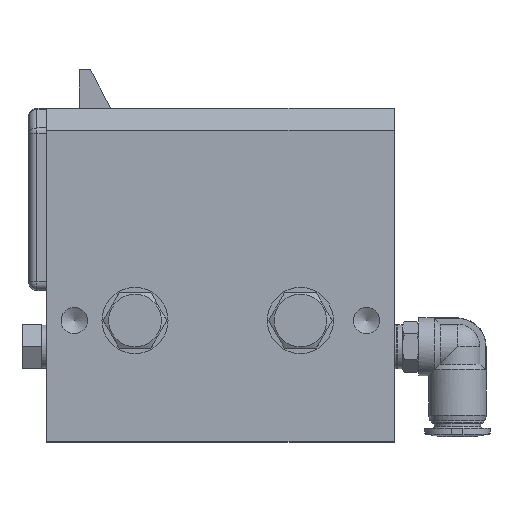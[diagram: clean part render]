
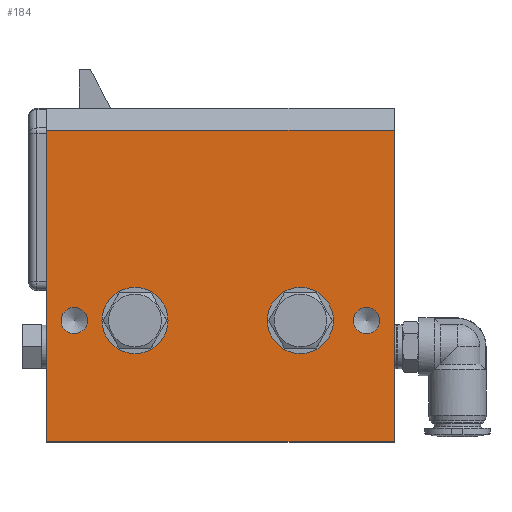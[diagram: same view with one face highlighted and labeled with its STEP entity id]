
A CAD part, top view. The second image highlights one B-rep face of the part: STEP entity #184.
In plain terms, the highlighted planar face has unit normal (0, 0, 1).
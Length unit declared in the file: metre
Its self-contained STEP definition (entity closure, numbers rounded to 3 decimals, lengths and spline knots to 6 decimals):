
#184 = ADVANCED_FACE ( 'NONE', ( #6180, #6227, #6161, #6205, #6247 ), #19250, .F. ) ;
#753 = ORIENTED_EDGE ( 'NONE', *, *, #22380, .T. ) ;
#759 = LINE ( 'NONE', #16651, #3459 ) ;
#1189 = VERTEX_POINT ( 'NONE', #21572 ) ;
#2501 = EDGE_CURVE ( 'NONE', #1189, #12974, #759, .T. ) ;
#2592 = CARTESIAN_POINT ( 'NONE',  ( 0.0132, 0., 0.034304 ) ) ;
#2747 = CARTESIAN_POINT ( 'NONE',  ( 0.0015, 0., 0.034304 ) ) ;
#2983 = CIRCLE ( 'NONE', #8362, 0.0031 ) ;
#3023 = VECTOR ( 'NONE', #18365, 1. ) ;
#3365 = DIRECTION ( 'NONE',  ( -1., 0., 0. ) ) ;
#3439 = CARTESIAN_POINT ( 'NONE',  ( -0.0059, 0.0385, 0.034304 ) ) ;
#3459 = VECTOR ( 'NONE', #4296, 1. ) ;
#3580 = LINE ( 'NONE', #4247, #3023 ) ;
#4247 = CARTESIAN_POINT ( 'NONE',  ( -0.0059, -0.022, 0.034304 ) ) ;
#4296 = DIRECTION ( 'NONE',  ( 0., 1., 0. ) ) ;
#4726 = CIRCLE ( 'NONE', #14170, 0.0031 ) ;
#4917 = LINE ( 'NONE', #11335, #5395 ) ;
#4918 = CARTESIAN_POINT ( 'NONE',  ( -0.0059, 0.0345, 0.034304 ) ) ;
#5166 = EDGE_LOOP ( 'NONE', ( #9213 ) ) ;
#5395 = VECTOR ( 'NONE', #13089, 1. ) ;
#5449 = EDGE_CURVE ( 'NONE', #16271, #16271, #10756, .T. ) ;
#5516 = DIRECTION ( 'NONE',  ( 0., 0., 1. ) ) ;
#5535 = EDGE_LOOP ( 'NONE', ( #17180 ) ) ;
#6161 = FACE_BOUND ( 'NONE', #19474, .T. ) ;
#6180 = FACE_BOUND ( 'NONE', #18334, .T. ) ;
#6205 = FACE_BOUND ( 'NONE', #5166, .T. ) ;
#6227 = FACE_BOUND ( 'NONE', #5535, .T. ) ;
#6247 = FACE_OUTER_BOUND ( 'NONE', #16998, .T. ) ;
#6368 = EDGE_CURVE ( 'NONE', #12974, #6460, #10778, .T. ) ;
#6371 = VERTEX_POINT ( 'NONE', #2747 ) ;
#6460 = VERTEX_POINT ( 'NONE', #4918 ) ;
#6745 = ORIENTED_EDGE ( 'NONE', *, *, #2501, .T. ) ;
#7977 = DIRECTION ( 'NONE',  ( 0., 0., 1. ) ) ;
#8049 = CARTESIAN_POINT ( 'NONE',  ( 0.0432, 0., 0.034304 ) ) ;
#8103 = DIRECTION ( 'NONE',  ( 0., 0., 1. ) ) ;
#8192 = ORIENTED_EDGE ( 'NONE', *, *, #6368, .T. ) ;
#8362 = AXIS2_PLACEMENT_3D ( 'NONE', #18536, #7977, #20301 ) ;
#8512 = ORIENTED_EDGE ( 'NONE', *, *, #12727, .T. ) ;
#8712 = CARTESIAN_POINT ( 'NONE',  ( 0.0571, 0.0345, 0.034304 ) ) ;
#8899 = ORIENTED_EDGE ( 'NONE', *, *, #17729, .F. ) ;
#9213 = ORIENTED_EDGE ( 'NONE', *, *, #18275, .F. ) ;
#9820 = CARTESIAN_POINT ( 'NONE',  ( -0.0009, 0., 0.034304 ) ) ;
#10756 = CIRCLE ( 'NONE', #14690, 0.0024 ) ;
#10778 = LINE ( 'NONE', #18816, #10796 ) ;
#10796 = VECTOR ( 'NONE', #20587, 1. ) ;
#11177 = CARTESIAN_POINT ( 'NONE',  ( 0.0545, 0., 0.034304 ) ) ;
#11335 = CARTESIAN_POINT ( 'NONE',  ( -0.0059, -0.022, 0.034304 ) ) ;
#11408 = AXIS2_PLACEMENT_3D ( 'NONE', #3439, #15719, #3365 ) ;
#11597 = DIRECTION ( 'NONE',  ( 1., 0., 0. ) ) ;
#12388 = EDGE_CURVE ( 'NONE', #21191, #21191, #2983, .T. ) ;
#12727 = EDGE_CURVE ( 'NONE', #15777, #1189, #3580, .T. ) ;
#12974 = VERTEX_POINT ( 'NONE', #8712 ) ;
#13089 = DIRECTION ( 'NONE',  ( 0., -1., 0. ) ) ;
#13810 = ORIENTED_EDGE ( 'NONE', *, *, #12388, .F. ) ;
#14170 = AXIS2_PLACEMENT_3D ( 'NONE', #18663, #8103, #20437 ) ;
#14690 = AXIS2_PLACEMENT_3D ( 'NONE', #16117, #5516, #17865 ) ;
#15719 = DIRECTION ( 'NONE',  ( 0., 0., -1. ) ) ;
#15777 = VERTEX_POINT ( 'NONE', #16219 ) ;
#16117 = CARTESIAN_POINT ( 'NONE',  ( 0.0521, 0., 0.034304 ) ) ;
#16219 = CARTESIAN_POINT ( 'NONE',  ( -0.0059, -0.022, 0.034304 ) ) ;
#16270 = AXIS2_PLACEMENT_3D ( 'NONE', #9820, #22188, #11597 ) ;
#16271 = VERTEX_POINT ( 'NONE', #11177 ) ;
#16651 = CARTESIAN_POINT ( 'NONE',  ( 0.0571, -0.022, 0.034304 ) ) ;
#16998 = EDGE_LOOP ( 'NONE', ( #6745, #8192, #753, #8512 ) ) ;
#17054 = CIRCLE ( 'NONE', #16270, 0.0024 ) ;
#17180 = ORIENTED_EDGE ( 'NONE', *, *, #5449, .F. ) ;
#17729 = EDGE_CURVE ( 'NONE', #6371, #6371, #17054, .T. ) ;
#17865 = DIRECTION ( 'NONE',  ( 1., 0., 0. ) ) ;
#18256 = VERTEX_POINT ( 'NONE', #8049 ) ;
#18275 = EDGE_CURVE ( 'NONE', #18256, #18256, #4726, .T. ) ;
#18334 = EDGE_LOOP ( 'NONE', ( #8899 ) ) ;
#18365 = DIRECTION ( 'NONE',  ( 1., 0., 0. ) ) ;
#18536 = CARTESIAN_POINT ( 'NONE',  ( 0.0101, 0., 0.034304 ) ) ;
#18663 = CARTESIAN_POINT ( 'NONE',  ( 0.0401, 0., 0.034304 ) ) ;
#18816 = CARTESIAN_POINT ( 'NONE',  ( -0.0059, 0.0345, 0.034304 ) ) ;
#19250 = PLANE ( 'NONE',  #11408 ) ;
#19474 = EDGE_LOOP ( 'NONE', ( #13810 ) ) ;
#20301 = DIRECTION ( 'NONE',  ( 1., 0., 0. ) ) ;
#20437 = DIRECTION ( 'NONE',  ( 1., 0., 0. ) ) ;
#20587 = DIRECTION ( 'NONE',  ( -1., 0., 0. ) ) ;
#21191 = VERTEX_POINT ( 'NONE', #2592 ) ;
#21572 = CARTESIAN_POINT ( 'NONE',  ( 0.0571, -0.022, 0.034304 ) ) ;
#22188 = DIRECTION ( 'NONE',  ( 0., 0., 1. ) ) ;
#22380 = EDGE_CURVE ( 'NONE', #6460, #15777, #4917, .T. ) ;
